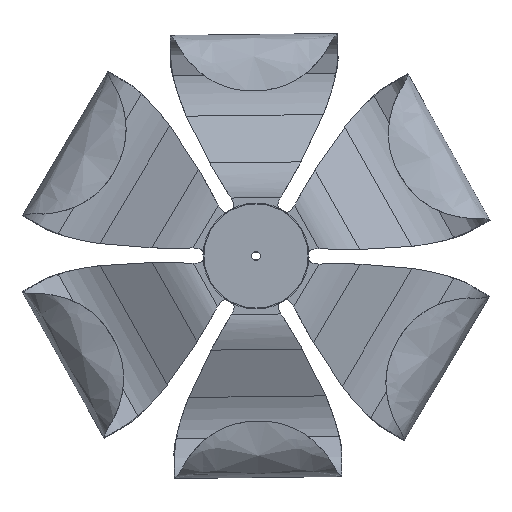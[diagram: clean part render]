
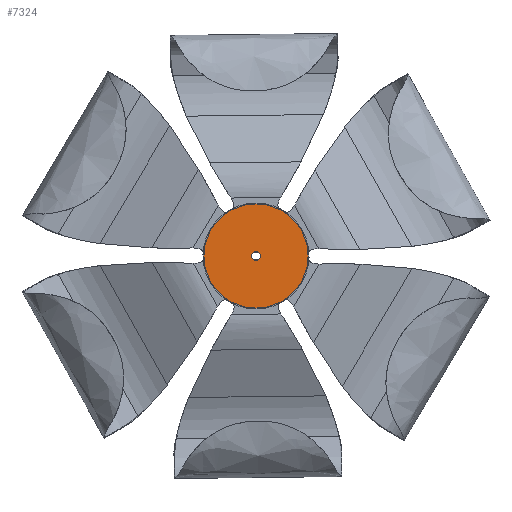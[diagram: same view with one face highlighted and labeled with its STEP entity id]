
A CAD part, front view. The second image highlights one B-rep face of the part: STEP entity #7324.
In plain terms, the highlighted planar face has unit normal (0, -1, 0).
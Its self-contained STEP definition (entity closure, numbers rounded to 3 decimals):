
#1083 = DIRECTION ( 'NONE',  ( 0., 1., 0. ) ) ;
#1104 = EDGE_LOOP ( 'NONE', ( #10002, #6545 ) ) ;
#1786 = VERTEX_POINT ( 'NONE', #7561 ) ;
#2703 = VERTEX_POINT ( 'NONE', #13555 ) ;
#3023 = DIRECTION ( 'NONE',  ( -1., 0., 0. ) ) ;
#3061 = AXIS2_PLACEMENT_3D ( 'NONE', #13816, #7406, #6055 ) ;
#3460 = CARTESIAN_POINT ( 'NONE',  ( 60., 19., -60. ) ) ;
#4137 = PLANE ( 'NONE',  #5092 ) ;
#4493 = ORIENTED_EDGE ( 'NONE', *, *, #6760, .F. ) ;
#4878 = DIRECTION ( 'NONE',  ( 1., 0., 0. ) ) ;
#4952 = AXIS2_PLACEMENT_3D ( 'NONE', #11883, #15627, #3023 ) ;
#5092 = AXIS2_PLACEMENT_3D ( 'NONE', #6766, #6708, #9221 ) ;
#5782 = EDGE_CURVE ( 'NONE', #1786, #8828, #7593, .T. ) ;
#6055 = DIRECTION ( 'NONE',  ( 0., 0., 1. ) ) ;
#6185 = FACE_BOUND ( 'NONE', #6645, .T. ) ;
#6194 = EDGE_CURVE ( 'NONE', #2703, #9041, #9950, .T. ) ;
#6545 = ORIENTED_EDGE ( 'NONE', *, *, #5782, .F. ) ;
#6645 = EDGE_LOOP ( 'NONE', ( #14159, #4493 ) ) ;
#6708 = DIRECTION ( 'NONE',  ( 0., 1., 0. ) ) ;
#6760 = EDGE_CURVE ( 'NONE', #9041, #2703, #13329, .T. ) ;
#6766 = CARTESIAN_POINT ( 'NONE',  ( 60., 19., -60. ) ) ;
#7324 = ADVANCED_FACE ( 'NONE', ( #9538, #6185 ), #4137, .F. ) ;
#7406 = DIRECTION ( 'NONE',  ( 0., -1., 0. ) ) ;
#7561 = CARTESIAN_POINT ( 'NONE',  ( 119., 19., -60. ) ) ;
#7593 = CIRCLE ( 'NONE', #11739, 59. ) ;
#8797 = AXIS2_PLACEMENT_3D ( 'NONE', #3460, #12434, #15009 ) ;
#8828 = VERTEX_POINT ( 'NONE', #13846 ) ;
#9041 = VERTEX_POINT ( 'NONE', #13158 ) ;
#9221 = DIRECTION ( 'NONE',  ( 1., 0., 0. ) ) ;
#9538 = FACE_OUTER_BOUND ( 'NONE', #1104, .T. ) ;
#9950 = CIRCLE ( 'NONE', #8797, 5. ) ;
#10002 = ORIENTED_EDGE ( 'NONE', *, *, #13334, .F. ) ;
#11739 = AXIS2_PLACEMENT_3D ( 'NONE', #16438, #1083, #4878 ) ;
#11883 = CARTESIAN_POINT ( 'NONE',  ( 60., 19., -60. ) ) ;
#12434 = DIRECTION ( 'NONE',  ( 0., -1., 0. ) ) ;
#12654 = CIRCLE ( 'NONE', #4952, 59. ) ;
#13158 = CARTESIAN_POINT ( 'NONE',  ( 60., 19., -55. ) ) ;
#13329 = CIRCLE ( 'NONE', #3061, 5. ) ;
#13334 = EDGE_CURVE ( 'NONE', #8828, #1786, #12654, .T. ) ;
#13555 = CARTESIAN_POINT ( 'NONE',  ( 60., 19., -65. ) ) ;
#13816 = CARTESIAN_POINT ( 'NONE',  ( 60., 19., -60. ) ) ;
#13846 = CARTESIAN_POINT ( 'NONE',  ( 1., 19., -60. ) ) ;
#14159 = ORIENTED_EDGE ( 'NONE', *, *, #6194, .F. ) ;
#15009 = DIRECTION ( 'NONE',  ( 0., 0., -1. ) ) ;
#15627 = DIRECTION ( 'NONE',  ( 0., 1., 0. ) ) ;
#16438 = CARTESIAN_POINT ( 'NONE',  ( 60., 19., -60. ) ) ;
